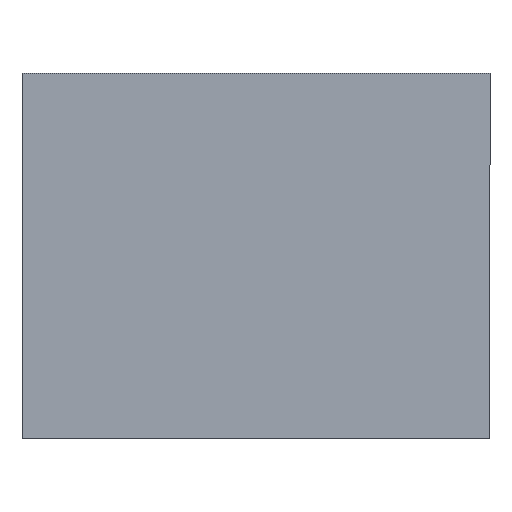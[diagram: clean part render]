
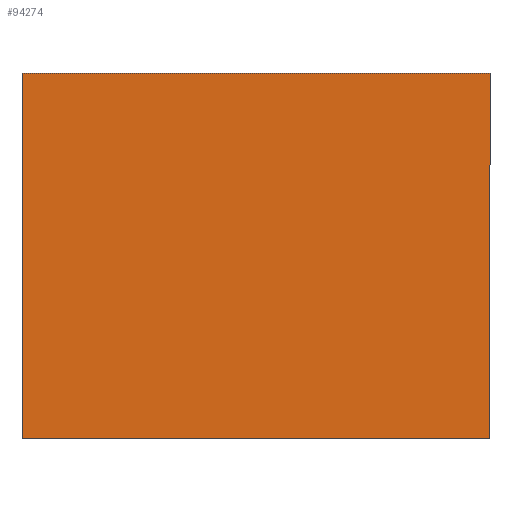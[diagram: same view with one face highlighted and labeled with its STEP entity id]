
A CAD part, front view. The second image highlights one B-rep face of the part: STEP entity #94274.
In plain terms, the highlighted planar face has unit normal (0, -1, 0).
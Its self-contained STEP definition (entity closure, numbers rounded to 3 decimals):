
#1153 = VERTEX_POINT ( 'NONE', #105298 ) ;
#1293 = LINE ( 'NONE', #96079, #25259 ) ;
#4842 = DIRECTION ( 'NONE',  ( 0., 0., 1. ) ) ;
#6444 = ORIENTED_EDGE ( 'NONE', *, *, #32160, .F. ) ;
#14201 = LINE ( 'NONE', #93641, #107514 ) ;
#14799 = DIRECTION ( 'NONE',  ( 0., 0., 1. ) ) ;
#16506 = VERTEX_POINT ( 'NONE', #37976 ) ;
#17429 = EDGE_CURVE ( 'NONE', #90752, #16506, #65032, .T. ) ;
#19778 = VECTOR ( 'NONE', #92274, 39.37 ) ;
#25259 = VECTOR ( 'NONE', #105178, 39.37 ) ;
#26853 = EDGE_CURVE ( 'NONE', #16506, #81702, #14201, .T. ) ;
#28928 = CARTESIAN_POINT ( 'NONE',  ( -11.52, -9.5, 8.985 ) ) ;
#32160 = EDGE_CURVE ( 'NONE', #81702, #1153, #1293, .T. ) ;
#37976 = CARTESIAN_POINT ( 'NONE',  ( 11.52, -9.5, 8.985 ) ) ;
#40908 = PLANE ( 'NONE',  #103475 ) ;
#43732 = FACE_OUTER_BOUND ( 'NONE', #76591, .T. ) ;
#52311 = ORIENTED_EDGE ( 'NONE', *, *, #26853, .F. ) ;
#58801 = DIRECTION ( 'NONE',  ( 0., 0., -1. ) ) ;
#63149 = VECTOR ( 'NONE', #4842, 39.37 ) ;
#65032 = LINE ( 'NONE', #28928, #19778 ) ;
#66616 = CARTESIAN_POINT ( 'NONE',  ( 0., -9.5, 0. ) ) ;
#68979 = DIRECTION ( 'NONE',  ( 0., 1., 0. ) ) ;
#74401 = ORIENTED_EDGE ( 'NONE', *, *, #17429, .F. ) ;
#76591 = EDGE_LOOP ( 'NONE', ( #90325, #6444, #52311, #74401 ) ) ;
#77152 = CARTESIAN_POINT ( 'NONE',  ( -11.52, -9.5, -8.985 ) ) ;
#81040 = EDGE_CURVE ( 'NONE', #1153, #90752, #87276, .T. ) ;
#81176 = CARTESIAN_POINT ( 'NONE',  ( -11.52, -9.5, 8.985 ) ) ;
#81702 = VERTEX_POINT ( 'NONE', #89912 ) ;
#87276 = LINE ( 'NONE', #77152, #63149 ) ;
#89912 = CARTESIAN_POINT ( 'NONE',  ( 11.52, -9.5, -8.985 ) ) ;
#90325 = ORIENTED_EDGE ( 'NONE', *, *, #81040, .F. ) ;
#90752 = VERTEX_POINT ( 'NONE', #81176 ) ;
#92274 = DIRECTION ( 'NONE',  ( 1., 0., 0. ) ) ;
#93641 = CARTESIAN_POINT ( 'NONE',  ( 11.52, -9.5, -8.985 ) ) ;
#94274 = ADVANCED_FACE ( 'NONE', ( #43732 ), #40908, .F. ) ;
#96079 = CARTESIAN_POINT ( 'NONE',  ( -11.52, -9.5, -8.985 ) ) ;
#103475 = AXIS2_PLACEMENT_3D ( 'NONE', #66616, #68979, #14799 ) ;
#105178 = DIRECTION ( 'NONE',  ( -1., 0., 0. ) ) ;
#105298 = CARTESIAN_POINT ( 'NONE',  ( -11.52, -9.5, -8.985 ) ) ;
#107514 = VECTOR ( 'NONE', #58801, 39.37 ) ;
